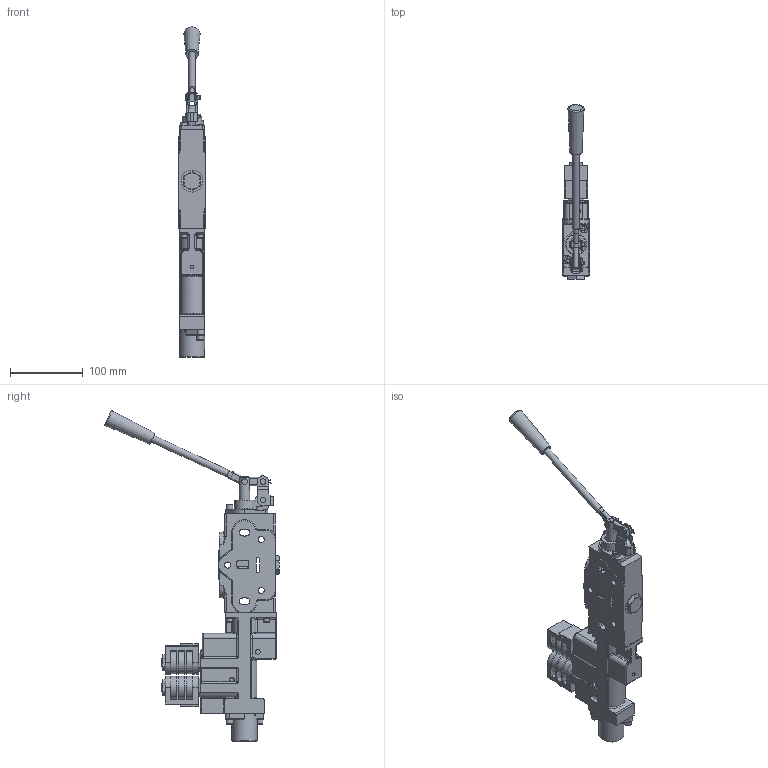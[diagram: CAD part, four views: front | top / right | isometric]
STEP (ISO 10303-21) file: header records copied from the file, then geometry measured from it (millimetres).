
FILE_DESCRIPTION(/* description */ ('','CAx-IF Rec.Pracs.---Representation and Presentation of Product Manufacturing Information (PMI)---3.8---2014-02-18'),/* implementation_level */ '2;1');
FILE_NAME(/* name */ 'C:\Vault\Workspace\RefDataValves\SolidModelShells\WebSolidModelShells\New2017\SVW1xx1-Cxxx.stp',/* time_stamp */ '2017-05-15T10:23:48-05:00',/* author */ ('PetersW'),/* organization */ ('Prince Manufacturing Corporation'),/* preprocessor_version */ 'ST-DEVELOPER v16.1',/* originating_system */ 'Autodesk Inventor 2016',/* authorisation */ '');
FILE_SCHEMA (('AP242_MANAGED_MODEL_BASED_3D_ENGINEERING_MIM_LF { 1 0 10303 442 1 1 4 }'));
Products named in the file (1): Part8
Bounding box: 36.5 x 239.5 x 453.71 mm (x, y, z)
Volume: 823131 mm3; surface area: 160834.3 mm2
Topology: 10 solids, 32 shells, 1549 faces, 3836 edges, 2364 vertices
Faces by surface type: plane 603, cylinder 446, bspline 234, cone 131, torus 108, sphere 27
Full cylindrical faces by diameter (mm): 2.381 x1, 2.388 x2, 3.683 x4, 3.861 x4, 4.661 x3, 4.75 x4, 4.801 x2, 4.826 x7, 4.978 x4, 5.004 x6, 5.207 x4, 6.096 x1, 6.35 x6, 6.731 x4, 7.797 x1, 7.798 x1, 7.925 x7, 8.331 x3, 8.763 x2, 9.525 x5, 9.779 x2, 9.931 x1, 10.998 x2, 12.548 x2, 12.675 x2, 12.763 x1, 13.005 x2, 14.275 x1, 15.875 x1, 16.751 x3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
Entity records: 50912 total; most frequent: CARTESIAN_POINT 15306, ORIENTED_EDGE 6970, DIRECTION 6765, EDGE_CURVE 3485, AXIS2_PLACEMENT_3D 2604, VERTEX_POINT 2262, EDGE_LOOP 1885, STYLED_ITEM 1559
